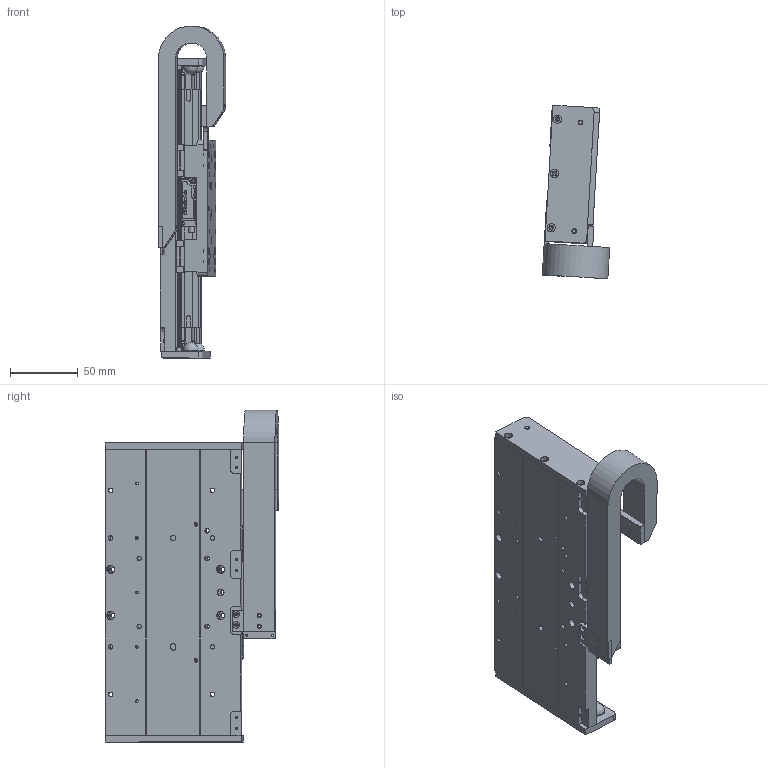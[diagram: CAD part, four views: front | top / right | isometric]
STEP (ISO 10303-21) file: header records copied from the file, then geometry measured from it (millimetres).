
FILE_DESCRIPTION(/* description */ (''),/* implementation_level */ '2;1');
FILE_NAME(/* name */ 'I:\FY15 Projects\MSR\MSR100\Web Step Models\mSR100L-100XLSXXXXXXCM13.stp',/* time_stamp */ '2015-02-18T13:13:19-05:00',/* author */ ('BF20108'),/* organization */ (''),/* preprocessor_version */ 'ST-DEVELOPER v15.2',/* originating_system */ 'Autodesk Inventor 2014',/* authorisation */ '');
FILE_SCHEMA (('AUTOMOTIVE_DESIGN { 1 0 10303 214 3 1 1 }'));
Products named in the file (18): 102-5710-03; 003-3562-35; 102-5702-02; ml18-120m-n; ml18-80m-n; 102-5703-01; 102-5705-01; 002-3740-03; 102-5701; 003-3561; ML18-3E; 003-5000; 002-3740-short-carriage-assy; mx100-mcb; mx100-scb; e045-16-018-carrier-02; 002-3740-cbl-carr-sc-02; 002-3740
Bounding box: 49.52 x 127.63 x 244.12 mm (x, y, z)
Volume: 444384.9 mm3; surface area: 214077.5 mm2
Topology: 23 solids, 24 shells, 2044 faces, 5545 edges, 3595 vertices
Faces by surface type: plane 1138, cylinder 683, cone 131, torus 80, bspline 8, sphere 4
Full cylindrical faces by diameter (mm): 0.5 x8, 1 x4, 1.567 x57, 1.588 x2, 2.007 x12, 2.013 x9, 2.135 x4, 2.4 x28, 2.459 x20, 2.5 x20, 2.642 x4, 2.75 x1, 3 x19, 3.242 x15, 3.4 x20, 3.505 x4, 4 x4, 4.17 x2, 4.2 x29, 4.5 x18, 5 x8, 5.08 x2, 6 x24, 11.176 x4
Entity records: 53159 total; most frequent: CARTESIAN_POINT 10116, DIRECTION 8900, ORIENTED_EDGE 8392, EDGE_CURVE 4186, AXIS2_PLACEMENT_3D 3082, VERTEX_POINT 2885, LINE 2736, VECTOR 2736
